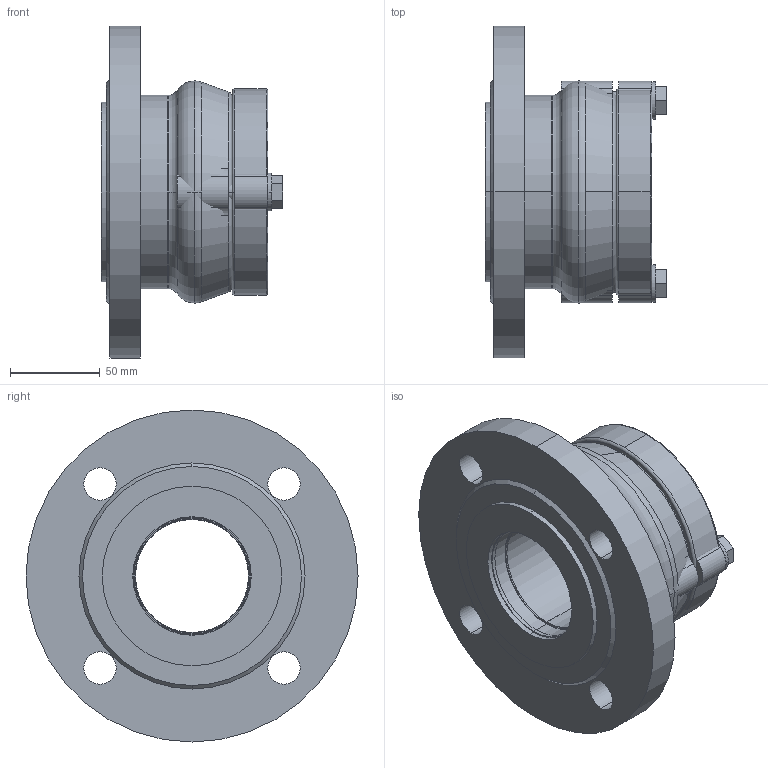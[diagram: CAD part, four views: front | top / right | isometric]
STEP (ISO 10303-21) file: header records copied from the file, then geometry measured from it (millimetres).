
FILE_DESCRIPTION(('STEP AP214'),'1');
FILE_NAME('U:/VDI-Daten/7200-(0400)/7200_PN16_DN65_63.STP','2012-06-15T09:02:46',(' '),(' '),'Spatial InterOp 3D',' ',' ');
FILE_SCHEMA(('automotive_design'));
Length unit declared in the file: millimetre
Products named in the file (16): 3D-Objekt
Bounding box: 101.4 x 185 x 185 mm (x, y, z)
Volume: 1002402.8 mm3; surface area: 197650.6 mm2
Topology: 16 solids, 16 shells, 121 faces, 260 edges, 172 vertices
Faces by surface type: cylinder 56, plane 45, torus 16, cone 4
Entity records: 4744 total; most frequent: DIRECTION 698, CARTESIAN_POINT 569, ORIENTED_EDGE 520, AXIS2_PLACEMENT_3D 301, EDGE_CURVE 260, VERTEX_POINT 172, CIRCLE 164, EDGE_LOOP 142
